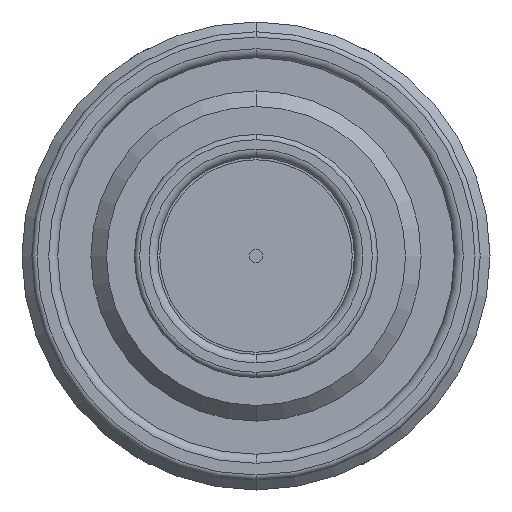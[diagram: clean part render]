
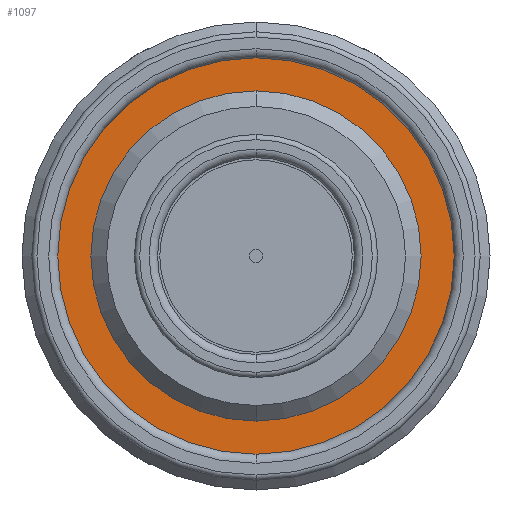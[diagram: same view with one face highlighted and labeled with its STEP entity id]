
A CAD part, front view. The second image highlights one B-rep face of the part: STEP entity #1097.
In plain terms, the highlighted planar face has unit normal (0, -1, 0).
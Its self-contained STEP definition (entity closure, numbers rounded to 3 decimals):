
#685=PLANE('',#2825);
#722=FACE_BOUND('',#1367,.T.);
#723=FACE_BOUND('',#1368,.T.);
#1097=ADVANCED_FACE('',(#722,#723),#685,.F.);
#1367=EDGE_LOOP('',(#1651,#1652));
#1368=EDGE_LOOP('',(#1653,#1654));
#1651=ORIENTED_EDGE('',*,*,#2324,.F.);
#1652=ORIENTED_EDGE('',*,*,#2404,.F.);
#1653=ORIENTED_EDGE('',*,*,#2322,.T.);
#1654=ORIENTED_EDGE('',*,*,#2406,.T.);
#2127=VERTEX_POINT('',#3854);
#2128=VERTEX_POINT('',#3856);
#2129=VERTEX_POINT('',#3860);
#2130=VERTEX_POINT('',#3861);
#2322=EDGE_CURVE('',#2128,#2127,#2601,.T.);
#2324=EDGE_CURVE('',#2129,#2130,#2602,.T.);
#2404=EDGE_CURVE('',#2130,#2129,#2624,.T.);
#2406=EDGE_CURVE('',#2127,#2128,#2626,.T.);
#2601=CIRCLE('',#2780,12.7);
#2602=CIRCLE('',#2782,17.1);
#2624=CIRCLE('',#2821,17.1);
#2626=CIRCLE('',#2824,12.7);
#2780=AXIS2_PLACEMENT_3D('',#3855,#3150,#3151);
#2782=AXIS2_PLACEMENT_3D('',#3859,#3155,#3156);
#2821=AXIS2_PLACEMENT_3D('',#4100,#3263,#3264);
#2824=AXIS2_PLACEMENT_3D('',#4103,#3269,#3270);
#2825=AXIS2_PLACEMENT_3D('',#4104,#3271,#3272);
#3150=DIRECTION('',(0.,1.,0.));
#3151=DIRECTION('',(0.,0.,1.));
#3155=DIRECTION('',(0.,1.,0.));
#3156=DIRECTION('',(0.,0.,1.));
#3263=DIRECTION('',(0.,1.,0.));
#3264=DIRECTION('',(0.,0.,1.));
#3269=DIRECTION('',(0.,1.,0.));
#3270=DIRECTION('',(0.,0.,1.));
#3271=DIRECTION('',(0.,1.,0.));
#3272=DIRECTION('',(0.,0.,1.));
#3854=CARTESIAN_POINT('',(0.,-56.6,-12.7));
#3855=CARTESIAN_POINT('',(0.,-56.6,0.));
#3856=CARTESIAN_POINT('',(0.,-56.6,12.7));
#3859=CARTESIAN_POINT('',(0.,-56.6,0.));
#3860=CARTESIAN_POINT('',(0.,-56.6,17.1));
#3861=CARTESIAN_POINT('',(0.,-56.6,-17.1));
#4100=CARTESIAN_POINT('',(0.,-56.6,0.));
#4103=CARTESIAN_POINT('',(0.,-56.6,0.));
#4104=CARTESIAN_POINT('',(12.7,-56.6,0.));
